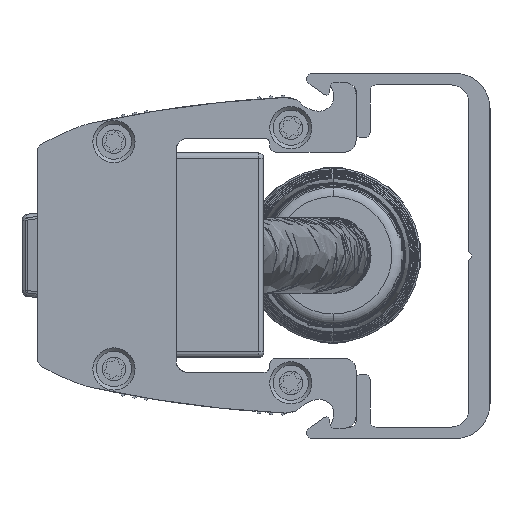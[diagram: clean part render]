
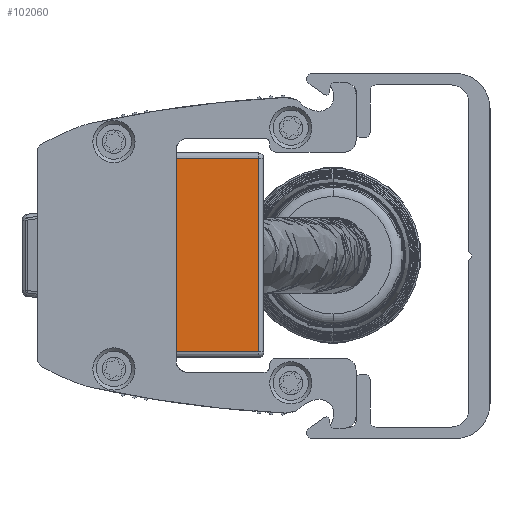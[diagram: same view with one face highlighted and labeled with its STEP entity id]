
A CAD part, left-side view. The second image highlights one B-rep face of the part: STEP entity #102060.
In plain terms, the highlighted planar face has unit normal (-1, 0, 0).
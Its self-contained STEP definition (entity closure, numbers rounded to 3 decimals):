
#2587 = CARTESIAN_POINT ( 'NONE',  ( -249.5, -7.5, 8.25 ) ) ;
#5452 = LINE ( 'NONE', #77747, #21550 ) ;
#5802 = ORIENTED_EDGE ( 'NONE', *, *, #7600, .T. ) ;
#7600 = EDGE_CURVE ( 'NONE', #40627, #55462, #5452, .T. ) ;
#17281 = CARTESIAN_POINT ( 'NONE',  ( -249.5, -7., -8.25 ) ) ;
#20594 = ORIENTED_EDGE ( 'NONE', *, *, #37207, .T. ) ;
#21550 = VECTOR ( 'NONE', #95030, 1000. ) ;
#21638 = CARTESIAN_POINT ( 'NONE',  ( -249.5, -7., 8.25 ) ) ;
#28629 = CARTESIAN_POINT ( 'NONE',  ( -249.5, 0., -8.25 ) ) ;
#33023 = CARTESIAN_POINT ( 'NONE',  ( -249.5, -7.5, -8.75 ) ) ;
#33718 = DIRECTION ( 'NONE',  ( 0., 0., 1. ) ) ;
#37207 = EDGE_CURVE ( 'NONE', #90385, #37384, #66013, .T. ) ;
#37384 = VERTEX_POINT ( 'NONE', #83296 ) ;
#40627 = VERTEX_POINT ( 'NONE', #28629 ) ;
#42470 = DIRECTION ( 'NONE',  ( 0., 0., -1. ) ) ;
#44891 = EDGE_CURVE ( 'NONE', #55462, #90385, #98751, .T. ) ;
#47597 = AXIS2_PLACEMENT_3D ( 'NONE', #33023, #97507, #42470 ) ;
#53715 = ORIENTED_EDGE ( 'NONE', *, *, #95073, .T. ) ;
#54253 = VECTOR ( 'NONE', #33718, 1000. ) ;
#55462 = VERTEX_POINT ( 'NONE', #17281 ) ;
#57704 = LINE ( 'NONE', #58198, #78949 ) ;
#58198 = CARTESIAN_POINT ( 'NONE',  ( -249.5, 0., -8.75 ) ) ;
#64381 = ORIENTED_EDGE ( 'NONE', *, *, #44891, .T. ) ;
#66013 = LINE ( 'NONE', #2587, #89304 ) ;
#66055 = PLANE ( 'NONE',  #47597 ) ;
#72330 = DIRECTION ( 'NONE',  ( 0., 1., 0. ) ) ;
#73609 = CARTESIAN_POINT ( 'NONE',  ( -249.5, -7., 8.75 ) ) ;
#77747 = CARTESIAN_POINT ( 'NONE',  ( -249.5, -7.5, -8.25 ) ) ;
#78949 = VECTOR ( 'NONE', #80202, 1000. ) ;
#80202 = DIRECTION ( 'NONE',  ( 0., 0., -1. ) ) ;
#82299 = FACE_OUTER_BOUND ( 'NONE', #86377, .T. ) ;
#83296 = CARTESIAN_POINT ( 'NONE',  ( -249.5, 0., 8.25 ) ) ;
#86377 = EDGE_LOOP ( 'NONE', ( #53715, #5802, #64381, #20594 ) ) ;
#89304 = VECTOR ( 'NONE', #72330, 1000. ) ;
#90385 = VERTEX_POINT ( 'NONE', #21638 ) ;
#95030 = DIRECTION ( 'NONE',  ( 0., -1., 0. ) ) ;
#95073 = EDGE_CURVE ( 'NONE', #37384, #40627, #57704, .T. ) ;
#97507 = DIRECTION ( 'NONE',  ( 1., 0., 0. ) ) ;
#98751 = LINE ( 'NONE', #73609, #54253 ) ;
#102060 = ADVANCED_FACE ( 'NONE', ( #82299 ), #66055, .F. ) ;
